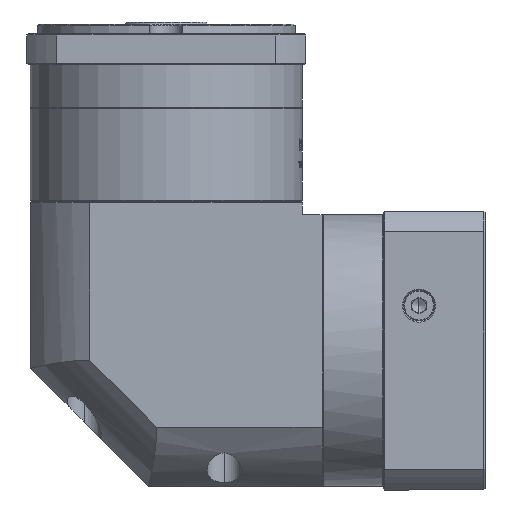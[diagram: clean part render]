
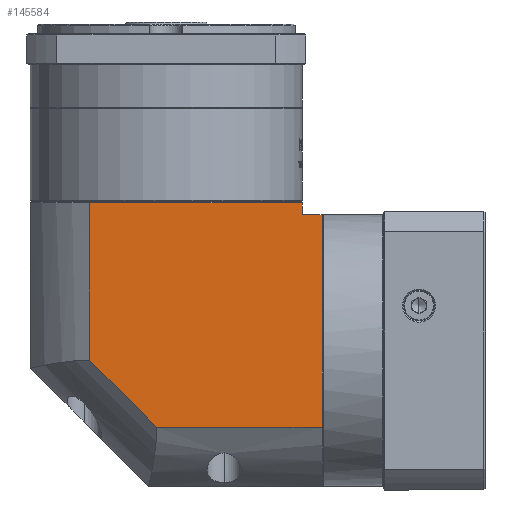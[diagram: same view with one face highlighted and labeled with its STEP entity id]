
A CAD part, left-side view. The second image highlights one B-rep face of the part: STEP entity #145584.
In plain terms, the highlighted planar face has unit normal (-1, 0, 0).
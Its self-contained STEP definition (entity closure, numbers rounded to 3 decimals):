
#1051 = CARTESIAN_POINT ( 'NONE',  ( -280.909, -86.315, 67.37 ) ) ;
#1657 = VECTOR ( 'NONE', #35732, 1000. ) ;
#9656 = DIRECTION ( 'NONE',  ( 0., 0., 1. ) ) ;
#12632 = EDGE_CURVE ( 'NONE', #77476, #156154, #47330, .T. ) ;
#23522 = CARTESIAN_POINT ( 'NONE',  ( -280.909, -86.315, 67.37 ) ) ;
#28074 = CARTESIAN_POINT ( 'NONE',  ( -280.909, -86.315, 72.37 ) ) ;
#31219 = PLANE ( 'NONE',  #98535 ) ;
#35732 = DIRECTION ( 'NONE',  ( 0., 1., 0. ) ) ;
#35742 = CARTESIAN_POINT ( 'NONE',  ( -280.909, 28.685, -22.529 ) ) ;
#40077 = VECTOR ( 'NONE', #59727, 1000. ) ;
#40968 = VECTOR ( 'NONE', #79131, 1000. ) ;
#41001 = ORIENTED_EDGE ( 'NONE', *, *, #12632, .T. ) ;
#41823 = DIRECTION ( 'NONE',  ( 1., 0., 0. ) ) ;
#44545 = VERTEX_POINT ( 'NONE', #46177 ) ;
#46177 = CARTESIAN_POINT ( 'NONE',  ( -280.909, 3.585, 5.809 ) ) ;
#46521 = ORIENTED_EDGE ( 'NONE', *, *, #123644, .T. ) ;
#47330 = LINE ( 'NONE', #23522, #1657 ) ;
#49129 = CARTESIAN_POINT ( 'NONE',  ( -280.909, -94.715, -22.529 ) ) ;
#49251 = ORIENTED_EDGE ( 'NONE', *, *, #95756, .F. ) ;
#53682 = EDGE_CURVE ( 'NONE', #77476, #95825, #143860, .T. ) ;
#59727 = DIRECTION ( 'NONE',  ( 0., 1., 0. ) ) ;
#67956 = DIRECTION ( 'NONE',  ( 0., 1., 0. ) ) ;
#71215 = ORIENTED_EDGE ( 'NONE', *, *, #124486, .F. ) ;
#77476 = VERTEX_POINT ( 'NONE', #115996 ) ;
#79131 = DIRECTION ( 'NONE',  ( 0., 0., 1. ) ) ;
#80363 = VERTEX_POINT ( 'NONE', #150172 ) ;
#82964 = DIRECTION ( 'NONE',  ( 0., 0.707, 0.707 ) ) ;
#84559 = DIRECTION ( 'NONE',  ( 0., 0., -1. ) ) ;
#87728 = CARTESIAN_POINT ( 'NONE',  ( -280.909, 3.585, 78.87 ) ) ;
#94786 = FACE_OUTER_BOUND ( 'NONE', #150113, .T. ) ;
#95756 = EDGE_CURVE ( 'NONE', #151245, #44545, #148270, .T. ) ;
#95825 = VERTEX_POINT ( 'NONE', #49129 ) ;
#96603 = VERTEX_POINT ( 'NONE', #28074 ) ;
#97616 = LINE ( 'NONE', #35742, #40077 ) ;
#98535 = AXIS2_PLACEMENT_3D ( 'NONE', #107674, #41823, #67956 ) ;
#101082 = LINE ( 'NONE', #149219, #126833 ) ;
#107674 = CARTESIAN_POINT ( 'NONE',  ( -280.909, 28.685, 78.87 ) ) ;
#108330 = LINE ( 'NONE', #153287, #40968 ) ;
#108787 = CARTESIAN_POINT ( 'NONE',  ( -280.909, -24.753, -22.529 ) ) ;
#110150 = VECTOR ( 'NONE', #84559, 1000. ) ;
#115996 = CARTESIAN_POINT ( 'NONE',  ( -280.909, -94.715, 67.37 ) ) ;
#121381 = ORIENTED_EDGE ( 'NONE', *, *, #53682, .F. ) ;
#123644 = EDGE_CURVE ( 'NONE', #156154, #96603, #108330, .T. ) ;
#124486 = EDGE_CURVE ( 'NONE', #44545, #80363, #135517, .T. ) ;
#126830 = ORIENTED_EDGE ( 'NONE', *, *, #150850, .F. ) ;
#126833 = VECTOR ( 'NONE', #163026, 1000. ) ;
#134887 = CARTESIAN_POINT ( 'NONE',  ( -280.909, -94.715, 78.87 ) ) ;
#135517 = LINE ( 'NONE', #87728, #157226 ) ;
#143860 = LINE ( 'NONE', #134887, #110150 ) ;
#145584 = ADVANCED_FACE ( 'NONE', ( #94786 ), #31219, .F. ) ;
#148270 = LINE ( 'NONE', #160332, #156184 ) ;
#149210 = ORIENTED_EDGE ( 'NONE', *, *, #154899, .F. ) ;
#149219 = CARTESIAN_POINT ( 'NONE',  ( -280.909, 28.685, 72.37 ) ) ;
#150113 = EDGE_LOOP ( 'NONE', ( #71215, #49251, #126830, #121381, #41001, #46521, #149210 ) ) ;
#150172 = CARTESIAN_POINT ( 'NONE',  ( -280.909, 3.585, 72.37 ) ) ;
#150850 = EDGE_CURVE ( 'NONE', #95825, #151245, #97616, .T. ) ;
#151245 = VERTEX_POINT ( 'NONE', #108787 ) ;
#153287 = CARTESIAN_POINT ( 'NONE',  ( -280.909, -86.315, -47.63 ) ) ;
#154899 = EDGE_CURVE ( 'NONE', #80363, #96603, #101082, .T. ) ;
#156154 = VERTEX_POINT ( 'NONE', #1051 ) ;
#156184 = VECTOR ( 'NONE', #82964, 1000. ) ;
#157226 = VECTOR ( 'NONE', #9656, 1000. ) ;
#160332 = CARTESIAN_POINT ( 'NONE',  ( -280.909, -24.753, -22.529 ) ) ;
#163026 = DIRECTION ( 'NONE',  ( 0., -1., 0. ) ) ;
